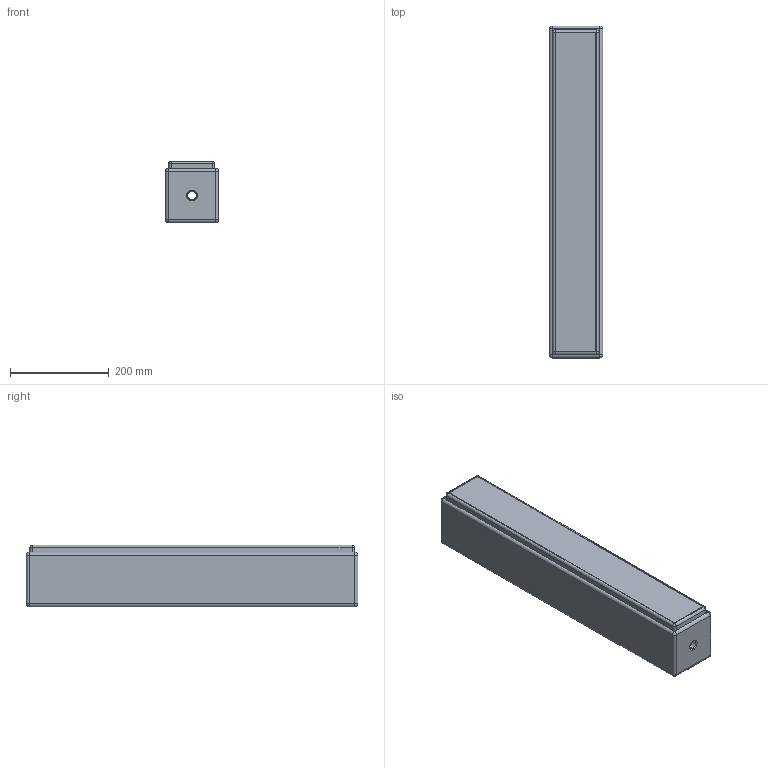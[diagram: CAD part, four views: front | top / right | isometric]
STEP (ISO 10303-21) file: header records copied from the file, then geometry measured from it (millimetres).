
FILE_DESCRIPTION (( 'STEP AP203' ), '1' );
FILE_NAME ('SEEBURG_L8i.STEP', '2012-09-26T06:19:25', ( 'Fabian' ), ( '' ), 'SwSTEP 2.0', 'SolidWorks 2009', '' );
FILE_SCHEMA (( 'CONFIG_CONTROL_DESIGN' ));
Length unit declared in the file: millimetre
Products named in the file (4): L8i_Stoffrahmen_Internet; SEEBURG_L8i; L8i_Gehäuse_Internet; L8i_Rückwand_Internet
Assembly tree (3 placements, depth 2):
  SEEBURG_L8i
    L8i_Rückwand_Internet
    L8i_Gehäuse_Internet
    L8i_Stoffrahmen_Internet
Bounding box: 108 x 671 x 124.15 mm (x, y, z)
Volume: 2734948.1 mm3; surface area: 726399.7 mm2
Topology: 4 solids, 4 shells, 104 faces, 252 edges, 144 vertices
Faces by surface type: cylinder 38, plane 36, cone 18, sphere 12
Entity records: 3380 total; most frequent: DIRECTION 564, CARTESIAN_POINT 494, ORIENTED_EDGE 480, EDGE_CURVE 240, AXIS2_PLACEMENT_3D 214, VERTEX_POINT 144, LINE 136, VECTOR 136
